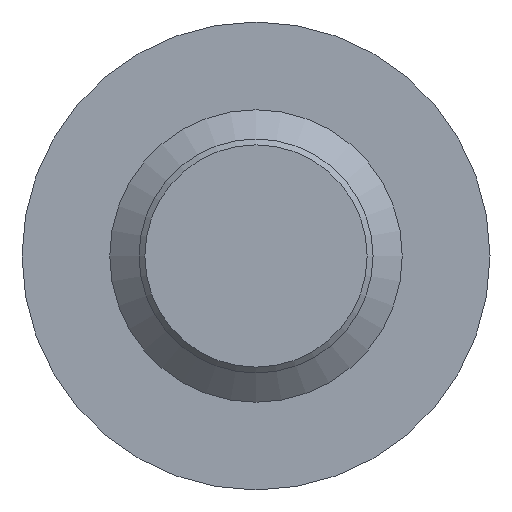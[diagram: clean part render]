
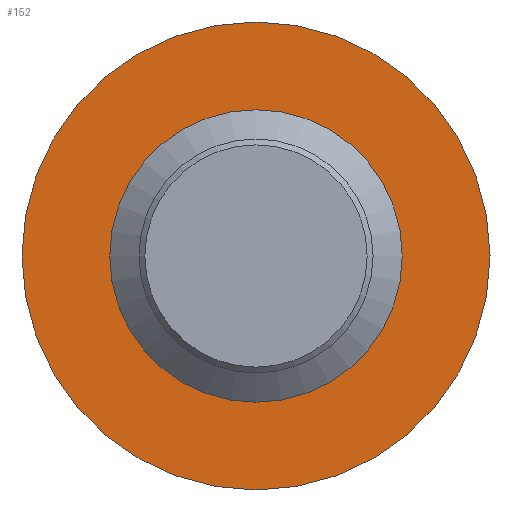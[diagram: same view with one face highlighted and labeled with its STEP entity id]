
A CAD part, front view. The second image highlights one B-rep face of the part: STEP entity #152.
In plain terms, the highlighted planar face has unit normal (0, -1, 0).
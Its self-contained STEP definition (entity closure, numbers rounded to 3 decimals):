
#15=FACE_BOUND('',#57,.T.);
#21=PLANE('',#195);
#45=FACE_OUTER_BOUND('',#56,.T.);
#56=EDGE_LOOP('',(#129));
#57=EDGE_LOOP('',(#130));
#67=CIRCLE('',#186,8.);
#72=CIRCLE('',#196,4.25);
#79=VERTEX_POINT('',#270);
#84=VERTEX_POINT('',#288);
#93=EDGE_CURVE('',#79,#79,#67,.T.);
#100=EDGE_CURVE('',#84,#84,#72,.T.);
#129=ORIENTED_EDGE('',*,*,#93,.F.);
#130=ORIENTED_EDGE('',*,*,#100,.F.);
#152=ADVANCED_FACE('',(#45,#15),#21,.F.);
#186=AXIS2_PLACEMENT_3D('',#272,#219,#220);
#195=AXIS2_PLACEMENT_3D('',#287,#239,#240);
#196=AXIS2_PLACEMENT_3D('',#289,#241,#242);
#219=DIRECTION('center_axis',(0.,1.,0.));
#220=DIRECTION('ref_axis',(1.,0.,0.));
#239=DIRECTION('center_axis',(0.,1.,0.));
#240=DIRECTION('ref_axis',(0.,0.,1.));
#241=DIRECTION('center_axis',(0.,-1.,0.));
#242=DIRECTION('ref_axis',(1.,0.,0.));
#270=CARTESIAN_POINT('',(-8.,16.6,0.));
#272=CARTESIAN_POINT('Origin',(0.,16.6,0.));
#287=CARTESIAN_POINT('Origin',(0.,16.6,0.));
#288=CARTESIAN_POINT('',(-4.25,16.6,0.));
#289=CARTESIAN_POINT('Origin',(0.,16.6,0.));
